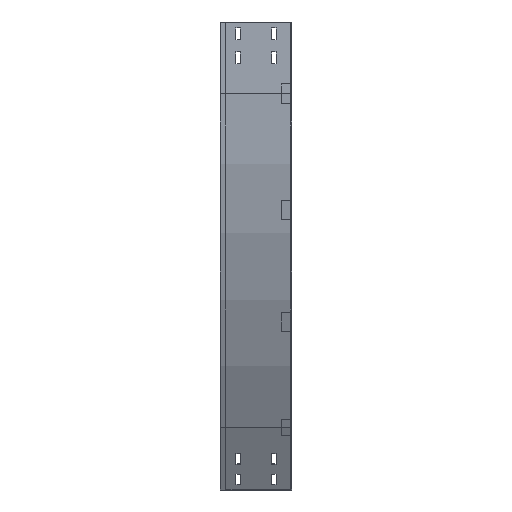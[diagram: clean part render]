
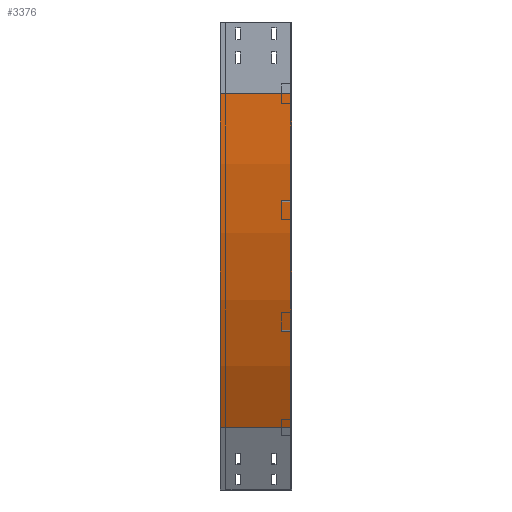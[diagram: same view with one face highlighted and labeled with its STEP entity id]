
A CAD part, left-side view. The second image highlights one B-rep face of the part: STEP entity #3376.
In plain terms, the highlighted cylindrical face has radius 1400 mm (diameter 2800 mm), a partial arc.
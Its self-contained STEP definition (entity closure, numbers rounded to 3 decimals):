
#5 = ORIENTED_EDGE ( 'NONE', *, *, #553, .T. ) ;
#78 = DIRECTION ( 'NONE',  ( 0., -1., 0. ) ) ;
#191 = CIRCLE ( 'NONE', #1872, 1400. ) ;
#281 = CARTESIAN_POINT ( 'NONE',  ( 1400., 0., -150. ) ) ;
#355 = LINE ( 'NONE', #3318, #2648 ) ;
#553 = EDGE_CURVE ( 'NONE', #3286, #3762, #3776, .T. ) ;
#677 = CARTESIAN_POINT ( 'NONE',  ( 0., 0., -150. ) ) ;
#770 = ORIENTED_EDGE ( 'NONE', *, *, #3071, .F. ) ;
#801 = AXIS2_PLACEMENT_3D ( 'NONE', #3847, #1192, #3814 ) ;
#1061 = DIRECTION ( 'NONE',  ( 0., -1., 0. ) ) ;
#1084 = DIRECTION ( 'NONE',  ( -1., 0., 0. ) ) ;
#1174 = CYLINDRICAL_SURFACE ( 'NONE', #801, 1400. ) ;
#1192 = DIRECTION ( 'NONE',  ( 0., -1., 0. ) ) ;
#1295 = CARTESIAN_POINT ( 'NONE',  ( 1400., 150., -150. ) ) ;
#1326 = EDGE_CURVE ( 'NONE', #2346, #1995, #191, .T. ) ;
#1570 = LINE ( 'NONE', #677, #2832 ) ;
#1872 = AXIS2_PLACEMENT_3D ( 'NONE', #281, #2617, #2652 ) ;
#1995 = VERTEX_POINT ( 'NONE', #3661 ) ;
#2112 = DIRECTION ( 'NONE',  ( 0., -1., 0. ) ) ;
#2310 = CARTESIAN_POINT ( 'NONE',  ( 187.564, 150., -850. ) ) ;
#2332 = CARTESIAN_POINT ( 'NONE',  ( 0., 150., -150. ) ) ;
#2338 = EDGE_LOOP ( 'NONE', ( #3722, #770, #5, #2969 ) ) ;
#2346 = VERTEX_POINT ( 'NONE', #3128 ) ;
#2617 = DIRECTION ( 'NONE',  ( 0., -1., 0. ) ) ;
#2648 = VECTOR ( 'NONE', #78, 1000. ) ;
#2652 = DIRECTION ( 'NONE',  ( -1., 0., 0. ) ) ;
#2660 = FACE_OUTER_BOUND ( 'NONE', #2338, .T. ) ;
#2770 = AXIS2_PLACEMENT_3D ( 'NONE', #1295, #1061, #1084 ) ;
#2832 = VECTOR ( 'NONE', #2112, 1000. ) ;
#2969 = ORIENTED_EDGE ( 'NONE', *, *, #3440, .T. ) ;
#3071 = EDGE_CURVE ( 'NONE', #3286, #2346, #1570, .T. ) ;
#3128 = CARTESIAN_POINT ( 'NONE',  ( 0., 0., -150. ) ) ;
#3286 = VERTEX_POINT ( 'NONE', #2332 ) ;
#3318 = CARTESIAN_POINT ( 'NONE',  ( 187.564, 0., -850. ) ) ;
#3376 = ADVANCED_FACE ( 'NONE', ( #2660 ), #1174, .T. ) ;
#3440 = EDGE_CURVE ( 'NONE', #3762, #1995, #355, .T. ) ;
#3661 = CARTESIAN_POINT ( 'NONE',  ( 187.564, 0., -850. ) ) ;
#3722 = ORIENTED_EDGE ( 'NONE', *, *, #1326, .F. ) ;
#3762 = VERTEX_POINT ( 'NONE', #2310 ) ;
#3776 = CIRCLE ( 'NONE', #2770, 1400. ) ;
#3814 = DIRECTION ( 'NONE',  ( 0., 0., -1. ) ) ;
#3847 = CARTESIAN_POINT ( 'NONE',  ( 1400., 0., -150. ) ) ;
